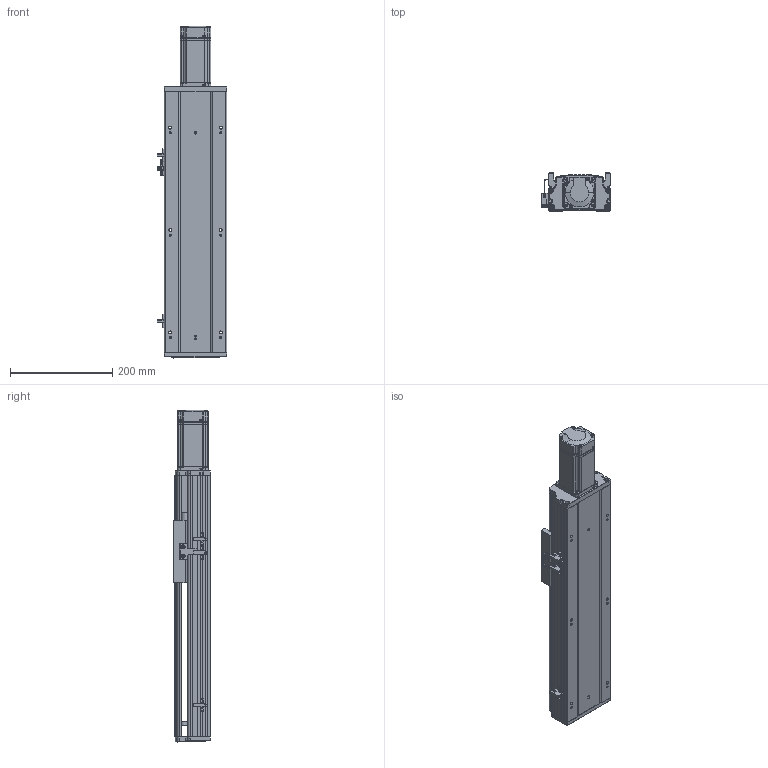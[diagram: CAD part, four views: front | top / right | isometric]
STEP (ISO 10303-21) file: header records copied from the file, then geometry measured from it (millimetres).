
FILE_DESCRIPTION (( 'STEP AP203' ), '1' );
FILE_NAME ('RY120Q-L1610-500-MK.SLDASM_0250.step', '2021-05-19T01:44:25', ( '盈信电脑' ), ( '东莞市道滘镇水果街19号' ), 'SwSTEP 2.0', 'SolidWorks 2016', '' );
FILE_SCHEMA (( 'CONFIG_CONTROL_DESIGN' ));
Length unit declared in the file: millimetre
Products named in the file (14): RY120-500-MK倰第奻裔啣_0250; RY120外置感应片(140共用）; RY120Q-L1610-500-MK.SLDASM_0250; 侂狟400W侜督萇儂; RY120萇儂釱FK12; 覜茼ん672; 滅袉蝶18-15; RY120綴裔啣; 鞠褒坶踡蹟譫BK12 ; RY120-500-MK倰第菁釱_0250; RY120铝滑块16丝杆（FK12）; 15; RY120QGB-1.8; 滅袉蝶18-10
Assembly tree (16 placements, depth 3):
  RY120Q-L1610-500-MK.SLDASM_0250
    RY120-500-MK倰第菁釱_0250
    RY120-500-MK倰第奻裔啣_0250
    侂狟400W侜督萇儂
      15
    鞠褒坶踡蹟譫BK12 
    RY120綴裔啣
    覜茼ん672  x3
    滅袉蝶18-10
    滅袉蝶18-15  x2
    RY120外置感应片(140共用）
    RY120QGB-1.8
    RY120铝滑块16丝杆（FK12）
    RY120萇儂釱FK12
Bounding box: 135.7 x 74 x 648.5 mm (x, y, z)
Volume: 1985312.1 mm3; surface area: 640818.4 mm2
Topology: 16 solids, 16 shells, 2050 faces, 5595 edges, 3578 vertices
Faces by surface type: plane 989, cylinder 753, cone 207, bspline 101
Entity records: 66463 total; most frequent: CARTESIAN_POINT 18097, ORIENTED_EDGE 9974, DIRECTION 9491, EDGE_CURVE 4987, VERTEX_POINT 3246, AXIS2_PLACEMENT_3D 3240, LINE 3011, VECTOR 3011
